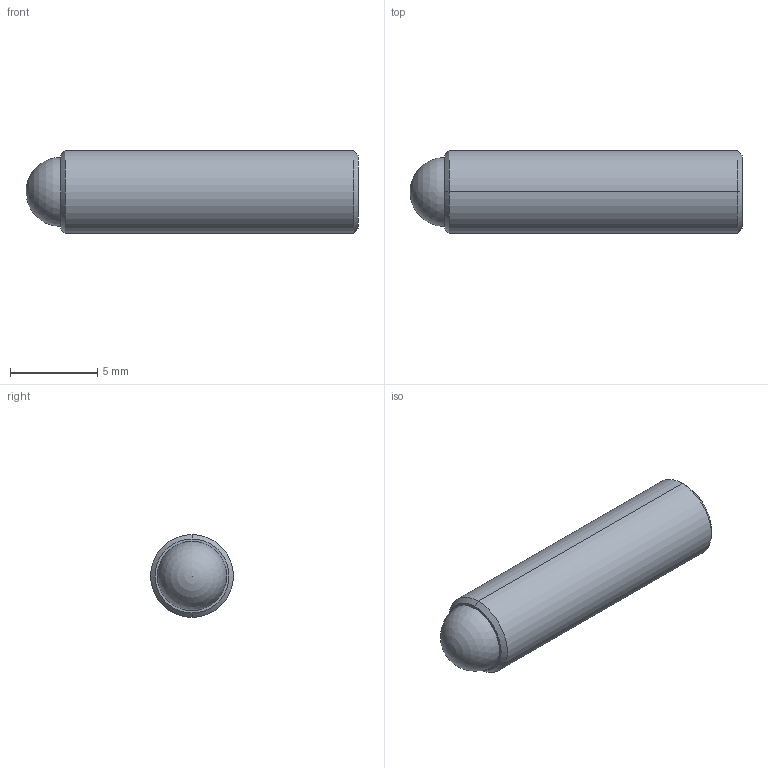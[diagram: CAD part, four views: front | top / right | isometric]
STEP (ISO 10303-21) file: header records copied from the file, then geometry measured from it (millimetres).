
FILE_DESCRIPTION (( 'STEP AP214' ), '1' );
FILE_NAME ('TS187-100-750-AA.STEP', '2013-02-11T17:08:33', ( 'workpc' ), ( 'Microsoft' ), 'SwSTEP 2.0', 'SolidWorks 2013', '' );
FILE_SCHEMA (( 'AUTOMOTIVE_DESIGN' ));
Length unit declared in the file: inch
Products named in the file (1): TS187-100-750-AA
Bounding box: 19.05 x 4.75 x 4.75 mm (x, y, z)
Volume: 298.5 mm3; surface area: 378.5 mm2
Topology: 2 solids, 2 shells, 20 faces, 45 edges, 29 vertices
Faces by surface type: plane 10, cylinder 4, cone 4, sphere 2
Entity records: 599 total; most frequent: DIRECTION 96, CARTESIAN_POINT 87, ORIENTED_EDGE 80, EDGE_CURVE 40, AXIS2_PLACEMENT_3D 35, VECTOR 26, LINE 26, VERTEX_POINT 26
